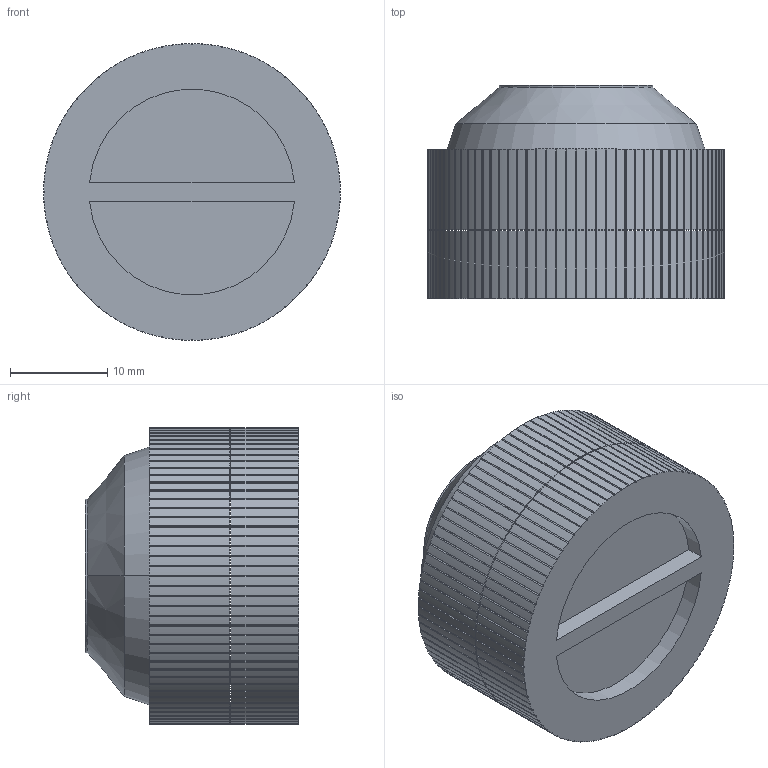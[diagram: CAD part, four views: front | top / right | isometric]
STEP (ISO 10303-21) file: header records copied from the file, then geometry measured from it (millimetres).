
FILE_DESCRIPTION((''),'2;1');
FILE_NAME('000','2024-12-09T11:20:45',('qinghui.yi'),(''),'CREO PARAMETRIC BY PTC INC, 2019164','CREO PARAMETRIC BY PTC INC, 2019164','');
FILE_SCHEMA(('CONFIG_CONTROL_DESIGN','SHAPE_APPEARANCE_LAYERS_GROUPS'));
Length unit declared in the file: millimetre
Products named in the file (1): 000
Bounding box: 30.6 x 22 x 30.6 mm (x, y, z)
Volume: 13318.8 mm3; surface area: 4965.9 mm2
Topology: 2 solids, 2 shells, 385 faces, 1132 edges, 754 vertices
Faces by surface type: cylinder 372, plane 9, cone 4
Entity records: 13636 total; most frequent: DIRECTION 2652, CARTESIAN_POINT 2271, ORIENTED_EDGE 2264, AXIS2_PLACEMENT_3D 1135, EDGE_CURVE 1132, VERTEX_POINT 754, CIRCLE 750, EDGE_LOOP 388
